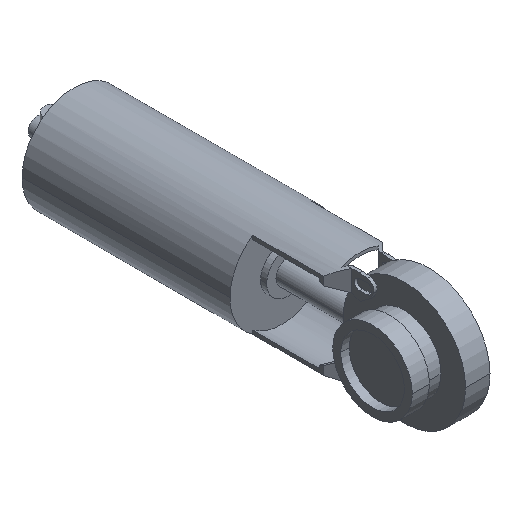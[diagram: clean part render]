
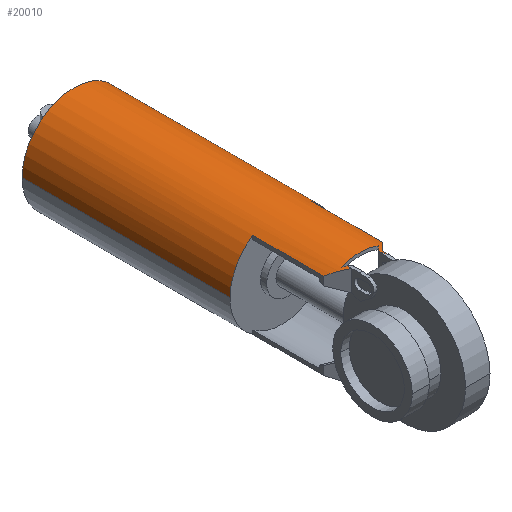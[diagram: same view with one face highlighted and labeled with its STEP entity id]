
A CAD part, isometric view. The second image highlights one B-rep face of the part: STEP entity #20010.
In plain terms, the highlighted cylindrical face has radius 42.5 mm (diameter 85 mm), a partial arc.
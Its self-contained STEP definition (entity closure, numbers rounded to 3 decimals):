
#18530=CARTESIAN_POINT('',(-73.686,122.246,0.));
#18540=DIRECTION('',(0.,1.,0.));
#18550=DIRECTION('',(1.,0.,0.));
#18560=AXIS2_PLACEMENT_3D('',#18530,#18540,#18550);
#18570=CYLINDRICAL_SURFACE('',#18560,42.5);
#18580=CARTESIAN_POINT('',(-49.686,316.107,
35.075));
#18590=DIRECTION('',(0.,-1.,0.));
#18600=VECTOR('',#18590,1.);
#18610=LINE('',#18580,#18600);
#18620=CARTESIAN_POINT('',(-49.686,119.246,
35.075));
#18630=VERTEX_POINT('',#18620);
#18640=CARTESIAN_POINT('',(-49.686,61.252,
35.075));
#18650=VERTEX_POINT('',#18640);
#18660=EDGE_CURVE('',#18630,#18650,#18610,.T.);
#18670=ORIENTED_EDGE('',*,*,#18660,.F.);
#18680=CARTESIAN_POINT('',(-73.686,37.252,0.));
#18690=DIRECTION('',(-0.707,0.707,0.));
#18700=DIRECTION('',(-0.707,-0.707,-0.));
#18710=AXIS2_PLACEMENT_3D('',#18680,#18690,#18700);
#18720=ELLIPSE('',#18710,60.104,42.5);
#18730=CARTESIAN_POINT('',(-61.186,49.752,
40.62));
#18740=VERTEX_POINT('',#18730);
#18750=EDGE_CURVE('',#18740,#18650,#18720,.T.);
#18760=ORIENTED_EDGE('',*,*,#18750,.T.);
#18770=CARTESIAN_POINT('',(-61.186,316.107,
40.62));
#18780=DIRECTION('',(0.,-1.,0.));
#18790=VECTOR('',#18780,1.);
#18800=LINE('',#18770,#18790);
#18810=CARTESIAN_POINT('',(-61.186,43.297,
40.62));
#18820=VERTEX_POINT('',#18810);
#18830=EDGE_CURVE('',#18740,#18820,#18800,.T.);
#18840=ORIENTED_EDGE('',*,*,#18830,.F.);
#18850=CARTESIAN_POINT('',(-73.686,-313.222,0.));
#18860=DIRECTION('',(0.,-0.113,0.994));
#18870=DIRECTION('',(0.,0.994,0.113));
#18880=AXIS2_PLACEMENT_3D('',#18850,#18860,#18870);
#18890=ELLIPSE('',#18880,375.431,42.5);
#18900=CARTESIAN_POINT('',(-63.039,47.9,
41.145));
#18910=VERTEX_POINT('',#18900);
#18920=EDGE_CURVE('',#18820,#18910,#18890,.T.);
#18930=ORIENTED_EDGE('',*,*,#18920,.F.);
#18940=CARTESIAN_POINT('',(-73.686,37.252,0.));
#18950=DIRECTION('',(0.707,-0.707,0.));
#18960=DIRECTION('',(0.707,0.707,0.));
#18970=AXIS2_PLACEMENT_3D('',#18940,#18950,#18960);
#18980=ELLIPSE('',#18970,60.104,42.5);
#18990=CARTESIAN_POINT('',(-63.686,47.252,
41.307));
#19000=VERTEX_POINT('',#18990);
#19010=EDGE_CURVE('',#18910,#19000,#18980,.T.);
#19020=ORIENTED_EDGE('',*,*,#19010,.F.);
#19030=CARTESIAN_POINT('',(-63.686,316.107,
41.307));
#19040=DIRECTION('',(0.,-1.,0.));
#19050=VECTOR('',#19040,1.);
#19060=LINE('',#19030,#19050);
#19070=CARTESIAN_POINT('',(-63.686,50.788,
41.307));
#19080=VERTEX_POINT('',#19070);
#19090=EDGE_CURVE('',#19080,#19000,#19060,.T.);
#19100=ORIENTED_EDGE('',*,*,#19090,.T.);
#19110=CARTESIAN_POINT('',(-73.686,40.788,0.));
#19120=DIRECTION('',(-0.707,0.707,0.));
#19130=DIRECTION('',(-0.707,-0.707,-0.));
#19140=AXIS2_PLACEMENT_3D('',#19110,#19120,#19130);
#19150=ELLIPSE('',#19140,60.104,42.5);
#19160=CARTESIAN_POINT('',(-58.629,55.846,
39.743));
#19170=VERTEX_POINT('',#19160);
#19180=EDGE_CURVE('',#19080,#19170,#19150,.T.);
#19190=ORIENTED_EDGE('',*,*,#19180,.F.);
#19200=CARTESIAN_POINT('',(-73.686,55.846,0.));
#19210=DIRECTION('',(0.,-1.,0.));
#19220=DIRECTION('',(0.,0.,1.));
#19230=AXIS2_PLACEMENT_3D('',#19200,#19210,#19220);
#19240=CIRCLE('',#19230,42.5);
#19250=CARTESIAN_POINT('',(-88.744,55.846,
39.743));
#19260=VERTEX_POINT('',#19250);
#19270=EDGE_CURVE('',#19170,#19260,#19240,.T.);
#19280=ORIENTED_EDGE('',*,*,#19270,.F.);
#19290=CARTESIAN_POINT('',(-73.686,40.788,0.));
#19300=DIRECTION('',(0.707,0.707,0.));
#19310=DIRECTION('',(-0.707,0.707,0.));
#19320=AXIS2_PLACEMENT_3D('',#19290,#19300,#19310);
#19330=ELLIPSE('',#19320,60.104,42.5);
#19340=CARTESIAN_POINT('',(-86.186,53.288,
40.62));
#19350=VERTEX_POINT('',#19340);
#19360=EDGE_CURVE('',#19260,#19350,#19330,.T.);
#19370=ORIENTED_EDGE('',*,*,#19360,.F.);
#19380=CARTESIAN_POINT('',(-86.186,316.107,
40.62));
#19390=DIRECTION('',(0.,-1.,0.));
#19400=VECTOR('',#19390,1.);
#19410=LINE('',#19380,#19400);
#19420=CARTESIAN_POINT('',(-86.186,49.752,
40.62));
#19430=VERTEX_POINT('',#19420);
#19440=EDGE_CURVE('',#19350,#19430,#19410,.T.);
#19450=ORIENTED_EDGE('',*,*,#19440,.F.);
#19460=CARTESIAN_POINT('',(-73.686,37.252,0.));
#19470=DIRECTION('',(-0.707,-0.707,-0.));
#19480=DIRECTION('',(0.707,-0.707,0.));
#19490=AXIS2_PLACEMENT_3D('',#19460,#19470,#19480);
#19500=ELLIPSE('',#19490,60.104,42.5);
#19510=CARTESIAN_POINT('',(-97.686,61.252,
35.075));
#19520=VERTEX_POINT('',#19510);
#19530=EDGE_CURVE('',#19430,#19520,#19500,.T.);
#19540=ORIENTED_EDGE('',*,*,#19530,.F.);
#19550=CARTESIAN_POINT('',(-97.686,316.107,
35.075));
#19560=DIRECTION('',(0.,-1.,0.));
#19570=VECTOR('',#19560,1.);
#19580=LINE('',#19550,#19570);
#19590=CARTESIAN_POINT('',(-97.686,119.246,
35.075));
#19600=VERTEX_POINT('',#19590);
#19610=EDGE_CURVE('',#19600,#19520,#19580,.T.);
#19620=ORIENTED_EDGE('',*,*,#19610,.T.);
#19630=CARTESIAN_POINT('',(-73.686,119.246,0.));
#19640=DIRECTION('',(0.,-1.,0.));
#19650=DIRECTION('',(0.,0.,1.));
#19660=AXIS2_PLACEMENT_3D('',#19630,#19640,#19650);
#19670=CIRCLE('',#19660,42.5);
#19680=CARTESIAN_POINT('',(-116.186,119.246,
0.));
#19690=VERTEX_POINT('',#19680);
#19700=EDGE_CURVE('',#19600,#19690,#19670,.T.);
#19710=ORIENTED_EDGE('',*,*,#19700,.F.);
#19720=CARTESIAN_POINT('',(-116.186,122.246,
0.));
#19730=DIRECTION('',(0.,1.,0.));
#19740=VECTOR('',#19730,1.);
#19750=LINE('',#19720,#19740);
#19760=CARTESIAN_POINT('',(-116.186,289.246,
0.));
#19770=VERTEX_POINT('',#19760);
#19780=EDGE_CURVE('',#19690,#19770,#19750,.T.);
#19790=ORIENTED_EDGE('',*,*,#19780,.F.);
#19800=CARTESIAN_POINT('',(-73.686,289.246,0.));
#19810=DIRECTION('',(0.,-1.,0.));
#19820=DIRECTION('',(0.,0.,-1.));
#19830=AXIS2_PLACEMENT_3D('',#19800,#19810,#19820);
#19840=CIRCLE('',#19830,42.5);
#19850=CARTESIAN_POINT('',(-31.186,289.246,0.));
#19860=VERTEX_POINT('',#19850);
#19870=EDGE_CURVE('',#19860,#19770,#19840,.T.);
#19880=ORIENTED_EDGE('',*,*,#19870,.T.);
#19890=CARTESIAN_POINT('',(-31.186,122.246,0.));
#19900=DIRECTION('',(0.,1.,0.));
#19910=VECTOR('',#19900,1.);
#19920=LINE('',#19890,#19910);
#19930=CARTESIAN_POINT('',(-31.186,119.246,0.));
#19940=VERTEX_POINT('',#19930);
#19950=EDGE_CURVE('',#19940,#19860,#19920,.T.);
#19960=ORIENTED_EDGE('',*,*,#19950,.T.);
#19970=EDGE_CURVE('',#19940,#18630,#19670,.T.);
#19980=ORIENTED_EDGE('',*,*,#19970,.F.);
#19990=EDGE_LOOP('',(#19980,#19960,#19880,#19790,#19710,#19620,#19540,
#19450,#19370,#19280,#19190,#19100,#19020,#18930,#18840,#18760,#18670));
#20000=FACE_OUTER_BOUND('',#19990,.T.);
#20010=ADVANCED_FACE('',(#20000),#18570,.T.);
